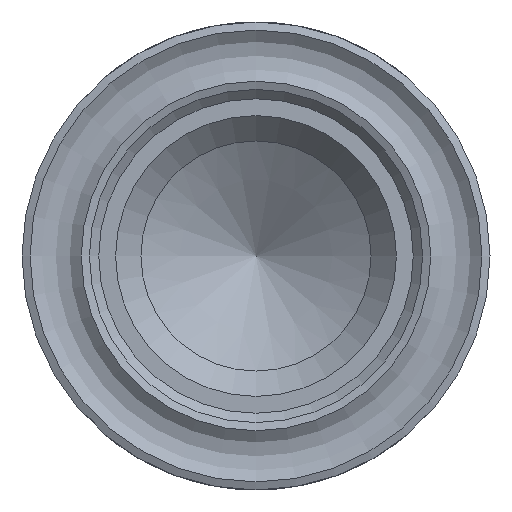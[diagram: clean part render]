
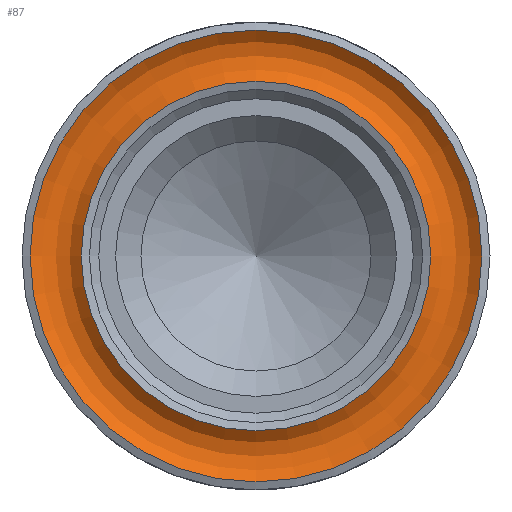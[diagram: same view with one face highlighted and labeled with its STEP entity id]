
A CAD part, left-side view. The second image highlights one B-rep face of the part: STEP entity #87.
In plain terms, the highlighted toroidal (fillet/blend) face has major radius 4.285 mm and minor radius 0.75 mm.
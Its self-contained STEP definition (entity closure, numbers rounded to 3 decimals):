
#87 = ADVANCED_FACE( '', ( #129, #130 ), #131, .F. );
#129 = FACE_OUTER_BOUND( '', #185, .T. );
#130 = FACE_OUTER_BOUND( '', #186, .T. );
#131 = TOROIDAL_SURFACE( '', #187, 4.285, 0.75 );
#185 = EDGE_LOOP( '', ( #280 ) );
#186 = EDGE_LOOP( '', ( #281 ) );
#187 = AXIS2_PLACEMENT_3D( '', #282, #283, #284 );
#280 = ORIENTED_EDGE( '', *, *, #340, .F. );
#281 = ORIENTED_EDGE( '', *, *, #341, .T. );
#282 = CARTESIAN_POINT( '', ( -20.236, 0., 0. ) );
#283 = DIRECTION( '', ( 1., 0., 0. ) );
#284 = DIRECTION( '', ( 0., 1., 0. ) );
#340 = EDGE_CURVE( '', #379, #379, #380, .T. );
#341 = EDGE_CURVE( '', #381, #381, #382, .T. );
#379 = VERTEX_POINT( '', #533 );
#380 = CIRCLE( '', #534, 4.828 );
#381 = VERTEX_POINT( '', #535 );
#382 = CIRCLE( '', #536, 3.734 );
#533 = CARTESIAN_POINT( '', ( -19.718, 4.828, 0. ) );
#534 = AXIS2_PLACEMENT_3D( '', #573, #574, #575 );
#535 = CARTESIAN_POINT( '', ( -19.728, 3.734, 0. ) );
#536 = AXIS2_PLACEMENT_3D( '', #576, #577, #578 );
#573 = CARTESIAN_POINT( '', ( -19.718, 0., 0. ) );
#574 = DIRECTION( '', ( 1., 0., 0. ) );
#575 = DIRECTION( '', ( 0., 1., 0. ) );
#576 = CARTESIAN_POINT( '', ( -19.728, 0., 0. ) );
#577 = DIRECTION( '', ( 1., 0., 0. ) );
#578 = DIRECTION( '', ( 0., 1., 0. ) );
